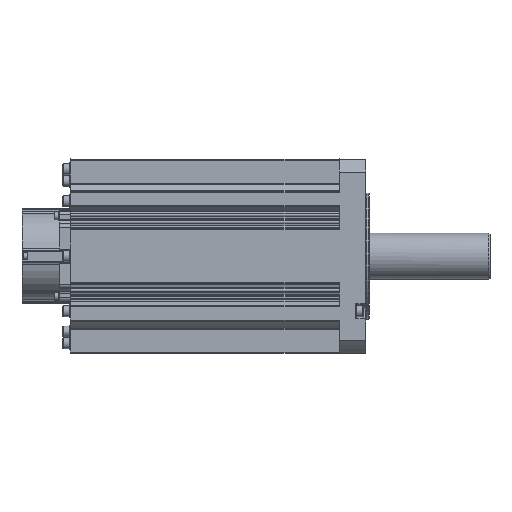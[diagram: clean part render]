
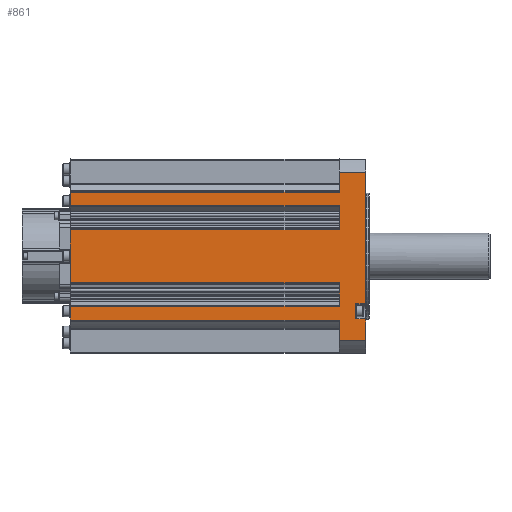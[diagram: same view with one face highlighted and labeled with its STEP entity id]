
A CAD part, front view. The second image highlights one B-rep face of the part: STEP entity #861.
In plain terms, the highlighted planar face has unit normal (0, -1, 0).
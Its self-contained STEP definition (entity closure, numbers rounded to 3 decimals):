
#861 = ADVANCED_FACE( '', ( #2817 ), #2818, .T. );
#2817 = FACE_OUTER_BOUND( '', #4918, .T. );
#2818 = PLANE( '', #4919 );
#4918 = EDGE_LOOP( '', ( #11312, #11313, #11314, #11315, #11316, #11317, #11318, #11319, #11320, #11321, #11322, #11323, #11324, #11325, #11326, #11327, #11328, #11329, #11330, #11331 ) );
#4919 = AXIS2_PLACEMENT_3D( '', #11332, #11333, #11334 );
#11312 = ORIENTED_EDGE( '', *, *, #14025, .F. );
#11313 = ORIENTED_EDGE( '', *, *, #14011, .T. );
#11314 = ORIENTED_EDGE( '', *, *, #14004, .T. );
#11315 = ORIENTED_EDGE( '', *, *, #14047, .F. );
#11316 = ORIENTED_EDGE( '', *, *, #14386, .F. );
#11317 = ORIENTED_EDGE( '', *, *, #14387, .T. );
#11318 = ORIENTED_EDGE( '', *, *, #14388, .F. );
#11319 = ORIENTED_EDGE( '', *, *, #13039, .T. );
#11320 = ORIENTED_EDGE( '', *, *, #14389, .T. );
#11321 = ORIENTED_EDGE( '', *, *, #14390, .T. );
#11322 = ORIENTED_EDGE( '', *, *, #14391, .F. );
#11323 = ORIENTED_EDGE( '', *, *, #13021, .T. );
#11324 = ORIENTED_EDGE( '', *, *, #14392, .T. );
#11325 = ORIENTED_EDGE( '', *, *, #14393, .T. );
#11326 = ORIENTED_EDGE( '', *, *, #14394, .F. );
#11327 = ORIENTED_EDGE( '', *, *, #13003, .T. );
#11328 = ORIENTED_EDGE( '', *, *, #14395, .T. );
#11329 = ORIENTED_EDGE( '', *, *, #14396, .T. );
#11330 = ORIENTED_EDGE( '', *, *, #14384, .T. );
#11331 = ORIENTED_EDGE( '', *, *, #14048, .F. );
#11332 = CARTESIAN_POINT( '', ( -24., -88., 76.343 ) );
#11333 = DIRECTION( '', ( 0., -1., 0. ) );
#11334 = DIRECTION( '', ( 0., 0., -1. ) );
#13003 = EDGE_CURVE( '', #15703, #15701, #15704, .T. );
#13021 = EDGE_CURVE( '', #15739, #15737, #15740, .T. );
#13039 = EDGE_CURVE( '', #15775, #15773, #15776, .T. );
#14004 = EDGE_CURVE( '', #17396, #17393, #17397, .T. );
#14011 = EDGE_CURVE( '', #17402, #17396, #17409, .T. );
#14025 = EDGE_CURVE( '', #17402, #17431, #17433, .T. );
#14047 = EDGE_CURVE( '', #17468, #17393, #17470, .T. );
#14048 = EDGE_CURVE( '', #17431, #17471, #17472, .T. );
#14384 = EDGE_CURVE( '', #18030, #17471, #18031, .T. );
#14386 = EDGE_CURVE( '', #18033, #17468, #18034, .T. );
#14387 = EDGE_CURVE( '', #18033, #18035, #18036, .T. );
#14388 = EDGE_CURVE( '', #15775, #18035, #18037, .T. );
#14389 = EDGE_CURVE( '', #15773, #18038, #18039, .T. );
#14390 = EDGE_CURVE( '', #18038, #18040, #18041, .T. );
#14391 = EDGE_CURVE( '', #15739, #18040, #18042, .T. );
#14392 = EDGE_CURVE( '', #15737, #18043, #18044, .T. );
#14393 = EDGE_CURVE( '', #18043, #18045, #18046, .T. );
#14394 = EDGE_CURVE( '', #15703, #18045, #18047, .T. );
#14395 = EDGE_CURVE( '', #15701, #18048, #18049, .T. );
#14396 = EDGE_CURVE( '', #18048, #18030, #18050, .T. );
#15701 = VERTEX_POINT( '', #19975 );
#15703 = VERTEX_POINT( '', #19977 );
#15704 = LINE( '', #19978, #19979 );
#15737 = VERTEX_POINT( '', #20018 );
#15739 = VERTEX_POINT( '', #20020 );
#15740 = LINE( '', #20021, #20022 );
#15773 = VERTEX_POINT( '', #20061 );
#15775 = VERTEX_POINT( '', #20063 );
#15776 = LINE( '', #20064, #20065 );
#17393 = VERTEX_POINT( '', #22632 );
#17396 = VERTEX_POINT( '', #22635 );
#17397 = LINE( '', #22636, #22637 );
#17402 = VERTEX_POINT( '', #22643 );
#17409 = LINE( '', #22652, #22653 );
#17431 = VERTEX_POINT( '', #22683 );
#17433 = LINE( '', #22685, #22686 );
#17468 = VERTEX_POINT( '', #22732 );
#17470 = LINE( '', #22734, #22735 );
#17471 = VERTEX_POINT( '', #22736 );
#17472 = LINE( '', #22737, #22738 );
#18030 = VERTEX_POINT( '', #23757 );
#18031 = LINE( '', #23758, #23759 );
#18033 = VERTEX_POINT( '', #23761 );
#18034 = LINE( '', #23762, #23763 );
#18035 = VERTEX_POINT( '', #23764 );
#18036 = LINE( '', #23765, #23766 );
#18037 = LINE( '', #23767, #23768 );
#18038 = VERTEX_POINT( '', #23769 );
#18039 = LINE( '', #23770, #23771 );
#18040 = VERTEX_POINT( '', #23772 );
#18041 = LINE( '', #23773, #23774 );
#18042 = LINE( '', #23775, #23776 );
#18043 = VERTEX_POINT( '', #23777 );
#18044 = LINE( '', #23778, #23779 );
#18045 = VERTEX_POINT( '', #23780 );
#18046 = LINE( '', #23781, #23782 );
#18047 = LINE( '', #23783, #23784 );
#18048 = VERTEX_POINT( '', #23785 );
#18049 = LINE( '', #23786, #23787 );
#18050 = LINE( '', #23788, #23789 );
#19975 = CARTESIAN_POINT( '', ( -268., -88., -58. ) );
#19977 = CARTESIAN_POINT( '', ( -268., -88., -45.606 ) );
#19978 = CARTESIAN_POINT( '', ( -268., -88., -45.606 ) );
#19979 = VECTOR( '', #25191, 1000. );
#20018 = CARTESIAN_POINT( '', ( -268., -88., -24. ) );
#20020 = CARTESIAN_POINT( '', ( -268., -88., 24. ) );
#20021 = CARTESIAN_POINT( '', ( -268., -88., 24. ) );
#20022 = VECTOR( '', #25231, 1000. );
#20061 = CARTESIAN_POINT( '', ( -268., -88., 45.606 ) );
#20063 = CARTESIAN_POINT( '', ( -268., -88., 58. ) );
#20064 = CARTESIAN_POINT( '', ( -268., -88., 58. ) );
#20065 = VECTOR( '', #25271, 1000. );
#22632 = CARTESIAN_POINT( '', ( 0., -88., -43. ) );
#22635 = CARTESIAN_POINT( '', ( -9., -88., -43. ) );
#22636 = CARTESIAN_POINT( '', ( -9., -88., -43. ) );
#22637 = VECTOR( '', #26708, 1000. );
#22643 = CARTESIAN_POINT( '', ( -9., -88., -57. ) );
#22652 = CARTESIAN_POINT( '', ( -9., -88., 76.343 ) );
#22653 = VECTOR( '', #26721, 1000. );
#22683 = CARTESIAN_POINT( '', ( 0., -88., -57. ) );
#22685 = CARTESIAN_POINT( '', ( -9., -88., -57. ) );
#22686 = VECTOR( '', #26745, 1000. );
#22732 = CARTESIAN_POINT( '', ( 0., -88., 76.343 ) );
#22734 = CARTESIAN_POINT( '', ( 0., -88., 76.343 ) );
#22735 = VECTOR( '', #26787, 1000. );
#22736 = CARTESIAN_POINT( '', ( 0., -88., -76.343 ) );
#22737 = CARTESIAN_POINT( '', ( 0., -88., 76.343 ) );
#22738 = VECTOR( '', #26788, 1000. );
#23757 = CARTESIAN_POINT( '', ( -24., -88., -76.343 ) );
#23758 = CARTESIAN_POINT( '', ( -24., -88., -76.343 ) );
#23759 = VECTOR( '', #27330, 1000. );
#23761 = CARTESIAN_POINT( '', ( -24., -88., 76.343 ) );
#23762 = CARTESIAN_POINT( '', ( -24., -88., 76.343 ) );
#23763 = VECTOR( '', #27334, 1000. );
#23764 = CARTESIAN_POINT( '', ( -24., -88., 58. ) );
#23765 = CARTESIAN_POINT( '', ( -24., -88., 76.343 ) );
#23766 = VECTOR( '', #27335, 1000. );
#23767 = CARTESIAN_POINT( '', ( -268., -88., 58. ) );
#23768 = VECTOR( '', #27336, 1000. );
#23769 = CARTESIAN_POINT( '', ( -24., -88., 45.606 ) );
#23770 = CARTESIAN_POINT( '', ( -268., -88., 45.606 ) );
#23771 = VECTOR( '', #27337, 1000. );
#23772 = CARTESIAN_POINT( '', ( -24., -88., 24. ) );
#23773 = CARTESIAN_POINT( '', ( -24., -88., 76.343 ) );
#23774 = VECTOR( '', #27338, 1000. );
#23775 = CARTESIAN_POINT( '', ( -268., -88., 24. ) );
#23776 = VECTOR( '', #27339, 1000. );
#23777 = CARTESIAN_POINT( '', ( -24., -88., -24. ) );
#23778 = CARTESIAN_POINT( '', ( -268., -88., -24. ) );
#23779 = VECTOR( '', #27340, 1000. );
#23780 = CARTESIAN_POINT( '', ( -24., -88., -45.606 ) );
#23781 = CARTESIAN_POINT( '', ( -24., -88., 76.343 ) );
#23782 = VECTOR( '', #27341, 1000. );
#23783 = CARTESIAN_POINT( '', ( -268., -88., -45.606 ) );
#23784 = VECTOR( '', #27342, 1000. );
#23785 = CARTESIAN_POINT( '', ( -24., -88., -58. ) );
#23786 = CARTESIAN_POINT( '', ( -268., -88., -58. ) );
#23787 = VECTOR( '', #27343, 1000. );
#23788 = CARTESIAN_POINT( '', ( -24., -88., 76.343 ) );
#23789 = VECTOR( '', #27344, 1000. );
#25191 = DIRECTION( '', ( 0., 0., -1. ) );
#25231 = DIRECTION( '', ( 0., 0., -1. ) );
#25271 = DIRECTION( '', ( 0., 0., -1. ) );
#26708 = DIRECTION( '', ( 1., 0., 0. ) );
#26721 = DIRECTION( '', ( 0., 0., 1. ) );
#26745 = DIRECTION( '', ( 1., 0., 0. ) );
#26787 = DIRECTION( '', ( 0., 0., -1. ) );
#26788 = DIRECTION( '', ( 0., 0., -1. ) );
#27330 = DIRECTION( '', ( 1., 0., 0. ) );
#27334 = DIRECTION( '', ( 1., 0., 0. ) );
#27335 = DIRECTION( '', ( 0., 0., -1. ) );
#27336 = DIRECTION( '', ( 1., 0., 0. ) );
#27337 = DIRECTION( '', ( 1., 0., 0. ) );
#27338 = DIRECTION( '', ( 0., 0., -1. ) );
#27339 = DIRECTION( '', ( 1., 0., 0. ) );
#27340 = DIRECTION( '', ( 1., 0., 0. ) );
#27341 = DIRECTION( '', ( 0., 0., -1. ) );
#27342 = DIRECTION( '', ( 1., 0., 0. ) );
#27343 = DIRECTION( '', ( 1., 0., 0. ) );
#27344 = DIRECTION( '', ( 0., 0., -1. ) );
